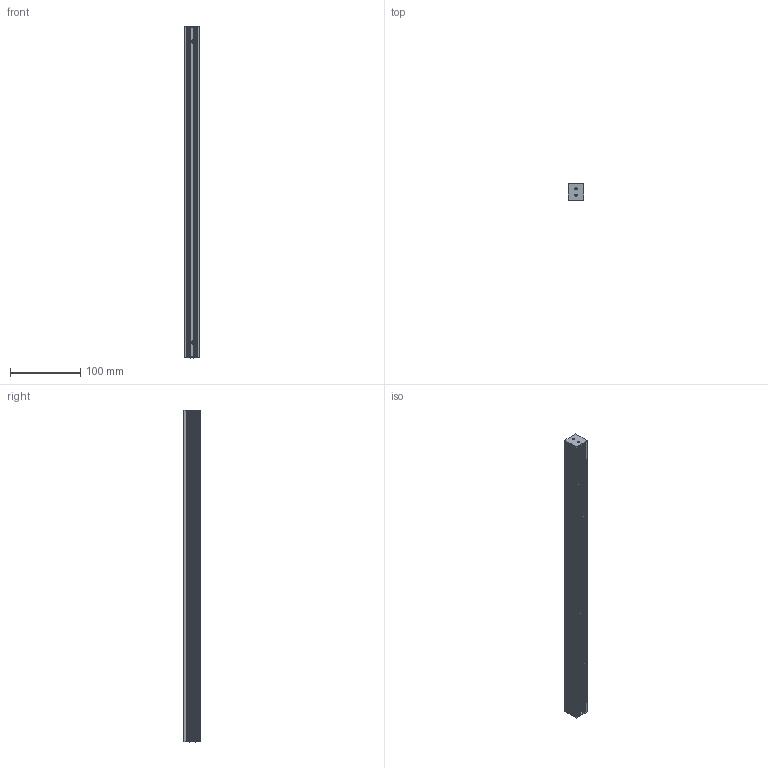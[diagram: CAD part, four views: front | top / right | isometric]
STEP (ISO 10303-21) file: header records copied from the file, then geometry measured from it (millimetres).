
FILE_DESCRIPTION((''),'2;1');
FILE_NAME('DSL-111-22','2020-03-23T',('ASUS'),(''),'PRO/ENGINEER BY PARAMETRIC TECHNOLOGY CORPORATION, 2008380','PRO/ENGINEER BY PARAMETRIC TECHNOLOGY CORPORATION, 2008380','');
FILE_SCHEMA(('CONFIG_CONTROL_DESIGN'));
Length unit declared in the file: millimetre
Products named in the file (1): DSL-111-22
Bounding box: 22 x 24.02 x 472 mm (x, y, z)
Volume: 217554.3 mm3; surface area: 83521.6 mm2
Topology: 1 solids, 5 shells, 279 faces, 712 edges, 464 vertices
Faces by surface type: plane 173, cylinder 86, cone 20
Entity records: 8497 total; most frequent: CARTESIAN_POINT 1604, DIRECTION 1420, ORIENTED_EDGE 1392, EDGE_CURVE 704, VECTOR 508, LINE 508, VERTEX_POINT 464, AXIS2_PLACEMENT_3D 456
